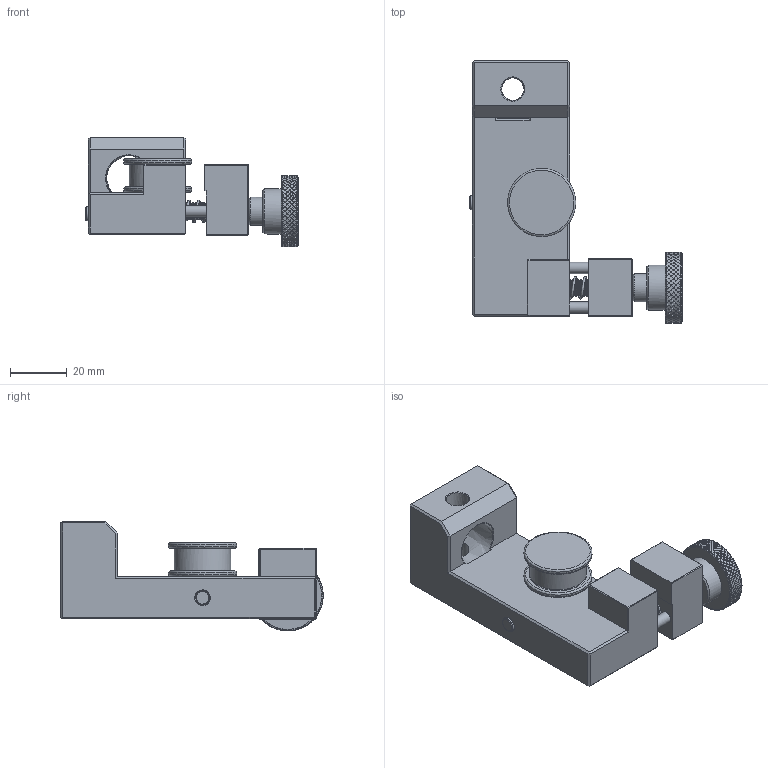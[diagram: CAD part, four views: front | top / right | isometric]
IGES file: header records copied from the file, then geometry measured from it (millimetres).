
Global section: file name: G1103 MODEL; native system: AutoCAD 2017 - English; preprocessor: Autodesk Translation Framework DWG producer (atf_dwg_producer); organization: unknown; date: 20171128.172351; units: inch
Bounding box: 74.77 x 92.47 x 38.64 mm (x, y, z)
Volume: 71931.7 mm3; surface area: 22136.6 mm2
Topology: 2 solids, 2 shells, 2314 faces, 6191 edges, 4130 vertices
Faces by surface type: bspline 2314
